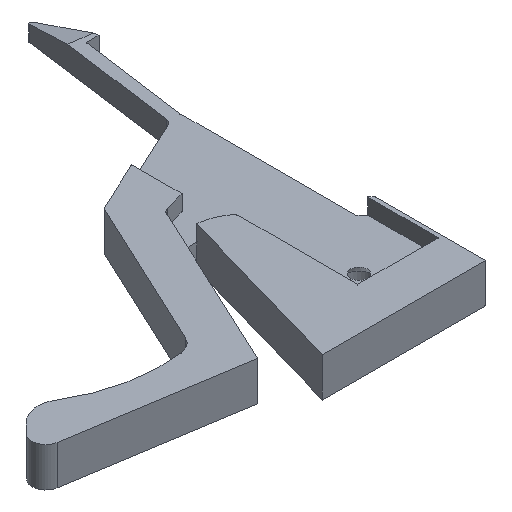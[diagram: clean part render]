
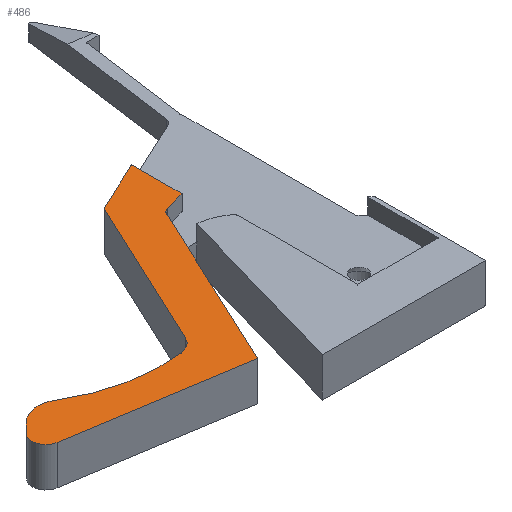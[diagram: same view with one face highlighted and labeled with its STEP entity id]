
A CAD part, isometric view. The second image highlights one B-rep face of the part: STEP entity #486.
In plain terms, the highlighted planar face has unit normal (0, 0, 1).
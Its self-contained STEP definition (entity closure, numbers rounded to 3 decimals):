
#22 = CARTESIAN_POINT ( 'NONE',  ( -81.475, 3.105, 10. ) ) ;
#73 = CARTESIAN_POINT ( 'NONE',  ( -13.481, 32.8, 10. ) ) ;
#83 = DIRECTION ( 'NONE',  ( 0., 0., 1. ) ) ;
#84 = DIRECTION ( 'NONE',  ( 1., 0., 0. ) ) ;
#86 = CARTESIAN_POINT ( 'NONE',  ( -8.9, 48.919, 10. ) ) ;
#87 = DIRECTION ( 'NONE',  ( 0., -1., 0. ) ) ;
#88 = CARTESIAN_POINT ( 'NONE',  ( -49.5, 40.8, 10. ) ) ;
#91 = DIRECTION ( 'NONE',  ( 0., 0., 1. ) ) ;
#92 = DIRECTION ( 'NONE',  ( -1., 0., 0. ) ) ;
#97 = CARTESIAN_POINT ( 'NONE',  ( -35.55, -9.795, 10. ) ) ;
#98 = DIRECTION ( 'NONE',  ( -0.423, -0.906, 0. ) ) ;
#110 = CARTESIAN_POINT ( 'NONE',  ( -13.998, 34.732, 10. ) ) ;
#111 = DIRECTION ( 'NONE',  ( -0.966, -0.259, 0. ) ) ;
#190 = PLANE ( 'NONE',  #1008 ) ;
#193 = CARTESIAN_POINT ( 'NONE',  ( 15.503, 98.8, 10. ) ) ;
#199 = DIRECTION ( 'NONE',  ( 0., 0., 1. ) ) ;
#200 = DIRECTION ( 'NONE',  ( 1., 0., 0. ) ) ;
#242 = CARTESIAN_POINT ( 'NONE',  ( -13.998, 34.732, 10. ) ) ;
#252 = CARTESIAN_POINT ( 'NONE',  ( -78.943, 5.637, 10. ) ) ;
#276 = CARTESIAN_POINT ( 'NONE',  ( -79.548, -2.827, 10. ) ) ;
#301 = CARTESIAN_POINT ( 'NONE',  ( -35.55, -9.795, 10. ) ) ;
#302 = CARTESIAN_POINT ( 'NONE',  ( -15.293, 33.645, 10. ) ) ;
#338 = EDGE_CURVE ( 'NONE', #1061, #1034, #749, .T. ) ;
#347 = EDGE_CURVE ( 'NONE', #426, #931, #716, .T. ) ;
#348 = EDGE_CURVE ( 'NONE', #406, #409, #759, .T. ) ;
#349 = EDGE_CURVE ( 'NONE', #1034, #426, #706, .T. ) ;
#350 = EDGE_CURVE ( 'NONE', #414, #408, #731, .T. ) ;
#351 = EDGE_CURVE ( 'NONE', #931, #412, #729, .T. ) ;
#353 = EDGE_CURVE ( 'NONE', #408, #406, #728, .T. ) ;
#368 = AXIS2_PLACEMENT_3D ( 'NONE', #1137, #1144, #1145 ) ;
#374 = AXIS2_PLACEMENT_3D ( 'NONE', #1140, #1146, #1147 ) ;
#377 = AXIS2_PLACEMENT_3D ( 'NONE', #1139, #1141, #1142 ) ;
#387 = AXIS2_PLACEMENT_3D ( 'NONE', #73, #83, #84 ) ;
#388 = AXIS2_PLACEMENT_3D ( 'NONE', #88, #91, #92 ) ;
#406 = VERTEX_POINT ( 'NONE', #1184 ) ;
#408 = VERTEX_POINT ( 'NONE', #1185 ) ;
#409 = VERTEX_POINT ( 'NONE', #1186 ) ;
#412 = VERTEX_POINT ( 'NONE', #1187 ) ;
#413 = VERTEX_POINT ( 'NONE', #1171 ) ;
#414 = VERTEX_POINT ( 'NONE', #1188 ) ;
#426 = VERTEX_POINT ( 'NONE', #22 ) ;
#450 = EDGE_CURVE ( 'NONE', #501, #1062, #763, .T. ) ;
#451 = EDGE_CURVE ( 'NONE', #409, #413, #747, .T. ) ;
#453 = EDGE_CURVE ( 'NONE', #412, #414, #788, .T. ) ;
#456 = EDGE_CURVE ( 'NONE', #1062, #1061, #785, .T. ) ;
#462 = EDGE_CURVE ( 'NONE', #413, #501, #805, .T. ) ;
#486 = ADVANCED_FACE ( 'NONE', ( #836 ), #190, .T. ) ;
#501 = VERTEX_POINT ( 'NONE', #242 ) ;
#506 = ORIENTED_EDGE ( 'NONE', *, *, #348, .F. ) ;
#509 = ORIENTED_EDGE ( 'NONE', *, *, #349, .F. ) ;
#510 = ORIENTED_EDGE ( 'NONE', *, *, #350, .F. ) ;
#511 = ORIENTED_EDGE ( 'NONE', *, *, #353, .F. ) ;
#522 = ORIENTED_EDGE ( 'NONE', *, *, #338, .F. ) ;
#537 = ORIENTED_EDGE ( 'NONE', *, *, #456, .F. ) ;
#623 = EDGE_LOOP ( 'NONE', ( #537, #660, #661, #662, #506, #511, #510, #939, #928, #929, #509, #522 ) ) ;
#660 = ORIENTED_EDGE ( 'NONE', *, *, #450, .F. ) ;
#661 = ORIENTED_EDGE ( 'NONE', *, *, #462, .F. ) ;
#662 = ORIENTED_EDGE ( 'NONE', *, *, #451, .F. ) ;
#691 = VECTOR ( 'NONE', #1136, 1000. ) ;
#706 = CIRCLE ( 'NONE', #377, 3.5 ) ;
#709 = VECTOR ( 'NONE', #1138, 1000. ) ;
#716 = LINE ( 'NONE', #1135, #691 ) ;
#727 = VECTOR ( 'NONE', #1151, 1000. ) ;
#728 = LINE ( 'NONE', #1150, #727 ) ;
#729 = CIRCLE ( 'NONE', #374, 7. ) ;
#731 = CIRCLE ( 'NONE', #368, 5. ) ;
#747 = LINE ( 'NONE', #86, #769 ) ;
#749 = LINE ( 'NONE', #1115, #750 ) ;
#750 = VECTOR ( 'NONE', #1117, 1000. ) ;
#759 = LINE ( 'NONE', #1133, #709 ) ;
#763 = CIRCLE ( 'NONE', #387, 2. ) ;
#769 = VECTOR ( 'NONE', #87, 1000. ) ;
#784 = VECTOR ( 'NONE', #98, 1000. ) ;
#785 = LINE ( 'NONE', #97, #784 ) ;
#788 = CIRCLE ( 'NONE', #388, 40. ) ;
#804 = VECTOR ( 'NONE', #111, 1000. ) ;
#805 = LINE ( 'NONE', #110, #804 ) ;
#836 = FACE_OUTER_BOUND ( 'NONE', #623, .T. ) ;
#928 = ORIENTED_EDGE ( 'NONE', *, *, #351, .F. ) ;
#929 = ORIENTED_EDGE ( 'NONE', *, *, #347, .F. ) ;
#931 = VERTEX_POINT ( 'NONE', #252 ) ;
#939 = ORIENTED_EDGE ( 'NONE', *, *, #453, .F. ) ;
#1008 = AXIS2_PLACEMENT_3D ( 'NONE', #193, #199, #200 ) ;
#1034 = VERTEX_POINT ( 'NONE', #276 ) ;
#1061 = VERTEX_POINT ( 'NONE', #301 ) ;
#1062 = VERTEX_POINT ( 'NONE', #302 ) ;
#1115 = CARTESIAN_POINT ( 'NONE',  ( -79.548, -2.827, 10. ) ) ;
#1117 = DIRECTION ( 'NONE',  ( -0.988, 0.156, 0. ) ) ;
#1133 = CARTESIAN_POINT ( 'NONE',  ( 8.403, 56.987, 10. ) ) ;
#1135 = CARTESIAN_POINT ( 'NONE',  ( -78.943, 5.637, 10. ) ) ;
#1136 = DIRECTION ( 'NONE',  ( 0.707, 0.707, 0. ) ) ;
#1137 = CARTESIAN_POINT ( 'NONE',  ( -44.672, 6.135, 10. ) ) ;
#1138 = DIRECTION ( 'NONE',  ( 0.906, 0.423, 0. ) ) ;
#1139 = CARTESIAN_POINT ( 'NONE',  ( -79., 0.63, 10. ) ) ;
#1140 = CARTESIAN_POINT ( 'NONE',  ( -73.993, 0.687, 10. ) ) ;
#1141 = DIRECTION ( 'NONE',  ( 0., 0., -1. ) ) ;
#1142 = DIRECTION ( 'NONE',  ( 1., 0., 0. ) ) ;
#1144 = DIRECTION ( 'NONE',  ( 0., 0., 1. ) ) ;
#1145 = DIRECTION ( 'NONE',  ( -1., 0., 0. ) ) ;
#1146 = DIRECTION ( 'NONE',  ( 0., 0., -1. ) ) ;
#1147 = DIRECTION ( 'NONE',  ( -1., 0., 0. ) ) ;
#1150 = CARTESIAN_POINT ( 'NONE',  ( -22.068, 42.779, 10. ) ) ;
#1151 = DIRECTION ( 'NONE',  ( 0.423, 0.906, 0. ) ) ;
#1171 = CARTESIAN_POINT ( 'NONE',  ( -8.9, 36.098, 10. ) ) ;
#1184 = CARTESIAN_POINT ( 'NONE',  ( -22.068, 42.779, 10. ) ) ;
#1185 = CARTESIAN_POINT ( 'NONE',  ( -40.141, 4.021, 10. ) ) ;
#1186 = CARTESIAN_POINT ( 'NONE',  ( -8.9, 48.919, 10. ) ) ;
#1187 = CARTESIAN_POINT ( 'NONE',  ( -70.346, 6.661, 10. ) ) ;
#1188 = CARTESIAN_POINT ( 'NONE',  ( -43.983, 1.182, 10. ) ) ;
